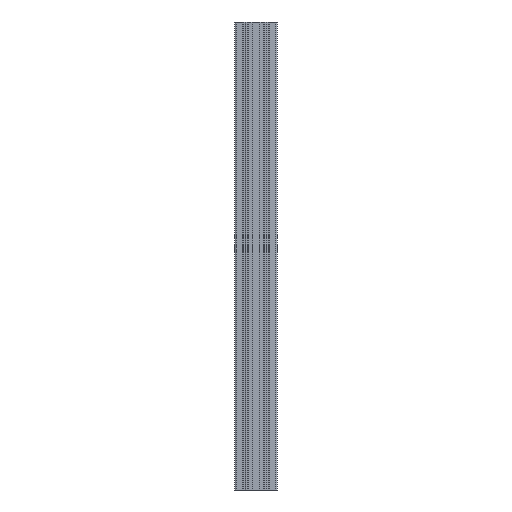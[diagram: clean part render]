
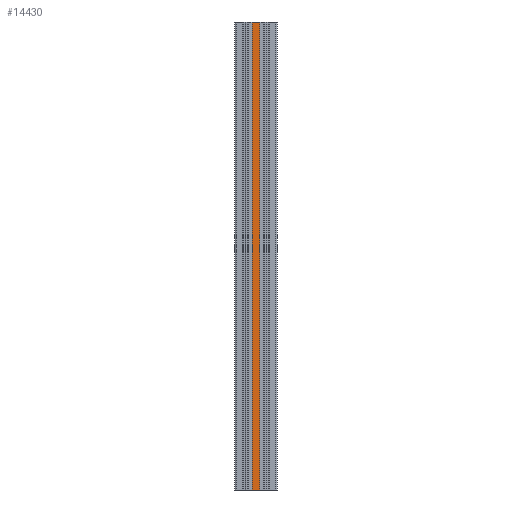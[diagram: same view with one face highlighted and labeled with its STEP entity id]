
A CAD part, left-side view. The second image highlights one B-rep face of the part: STEP entity #14430.
In plain terms, the highlighted planar face has unit normal (-1, 0, 0).
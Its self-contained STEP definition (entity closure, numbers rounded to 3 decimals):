
#2334 = VECTOR ( 'NONE', #20125, 1000. ) ;
#3525 = VERTEX_POINT ( 'NONE', #7251 ) ;
#5488 = CARTESIAN_POINT ( 'NONE',  ( -66.75, 0., 0. ) ) ;
#7251 = CARTESIAN_POINT ( 'NONE',  ( -66.75, -8., -1000. ) ) ;
#7759 = EDGE_LOOP ( 'NONE', ( #21665, #35419, #33449, #9483 ) ) ;
#7907 = VECTOR ( 'NONE', #17211, 1000. ) ;
#8576 = EDGE_CURVE ( 'NONE', #3525, #35925, #33647, .T. ) ;
#9483 = ORIENTED_EDGE ( 'NONE', *, *, #23648, .T. ) ;
#9921 = VECTOR ( 'NONE', #27669, 1000. ) ;
#10327 = EDGE_CURVE ( 'NONE', #35925, #26526, #18779, .T. ) ;
#10819 = LINE ( 'NONE', #12858, #9921 ) ;
#11043 = CARTESIAN_POINT ( 'NONE',  ( -66.75, 0., -1000. ) ) ;
#12858 = CARTESIAN_POINT ( 'NONE',  ( -66.75, -8., -1000. ) ) ;
#14430 = ADVANCED_FACE ( 'NONE', ( #16147 ), #28888, .F. ) ;
#15668 = LINE ( 'NONE', #5488, #7907 ) ;
#16020 = CARTESIAN_POINT ( 'NONE',  ( -66.75, 8., -1000. ) ) ;
#16147 = FACE_OUTER_BOUND ( 'NONE', #7759, .T. ) ;
#17211 = DIRECTION ( 'NONE',  ( 0., 1., 0. ) ) ;
#18779 = LINE ( 'NONE', #32004, #2334 ) ;
#19132 = DIRECTION ( 'NONE',  ( 0., 0., -1. ) ) ;
#19552 = AXIS2_PLACEMENT_3D ( 'NONE', #32461, #25137, #19132 ) ;
#20125 = DIRECTION ( 'NONE',  ( 0., 0., 1. ) ) ;
#21665 = ORIENTED_EDGE ( 'NONE', *, *, #33622, .T. ) ;
#23237 = VERTEX_POINT ( 'NONE', #37383 ) ;
#23648 = EDGE_CURVE ( 'NONE', #3525, #23237, #10819, .T. ) ;
#25137 = DIRECTION ( 'NONE',  ( 1., 0., 0. ) ) ;
#25880 = VECTOR ( 'NONE', #26514, 1000. ) ;
#26514 = DIRECTION ( 'NONE',  ( 0., 1., 0. ) ) ;
#26526 = VERTEX_POINT ( 'NONE', #26978 ) ;
#26978 = CARTESIAN_POINT ( 'NONE',  ( -66.75, 8., 0. ) ) ;
#27669 = DIRECTION ( 'NONE',  ( 0., 0., 1. ) ) ;
#28888 = PLANE ( 'NONE',  #19552 ) ;
#32004 = CARTESIAN_POINT ( 'NONE',  ( -66.75, 8., -1000. ) ) ;
#32461 = CARTESIAN_POINT ( 'NONE',  ( -66.75, 0., -1000. ) ) ;
#33449 = ORIENTED_EDGE ( 'NONE', *, *, #8576, .F. ) ;
#33622 = EDGE_CURVE ( 'NONE', #23237, #26526, #15668, .T. ) ;
#33647 = LINE ( 'NONE', #11043, #25880 ) ;
#35419 = ORIENTED_EDGE ( 'NONE', *, *, #10327, .F. ) ;
#35925 = VERTEX_POINT ( 'NONE', #16020 ) ;
#37383 = CARTESIAN_POINT ( 'NONE',  ( -66.75, -8., 0. ) ) ;
